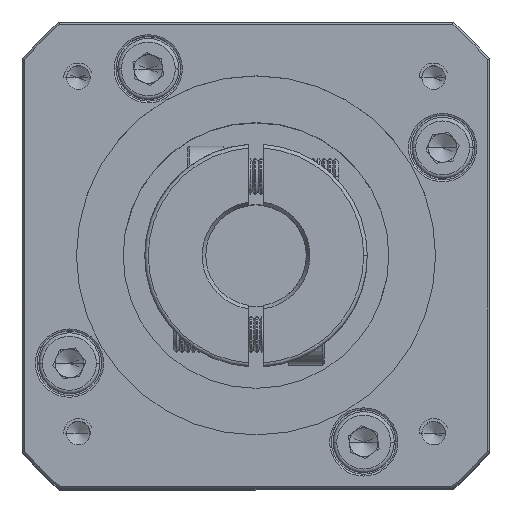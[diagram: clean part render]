
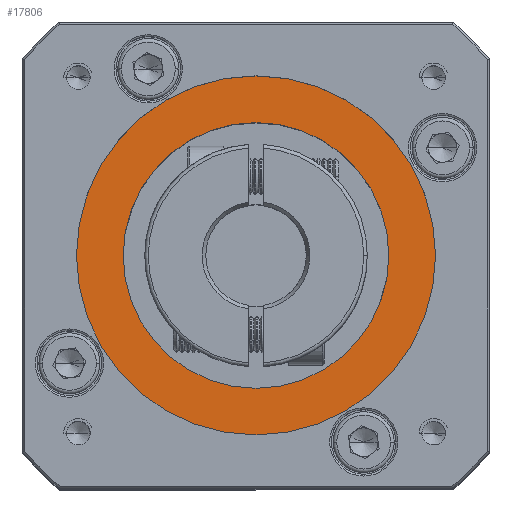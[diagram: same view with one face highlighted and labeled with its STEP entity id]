
A CAD part, top view. The second image highlights one B-rep face of the part: STEP entity #17806.
In plain terms, the highlighted planar face has unit normal (0, 0, 1).
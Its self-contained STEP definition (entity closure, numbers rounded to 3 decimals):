
#6511 = CIRCLE ( 'NONE', #107293, 25. ) ;
#7491 = EDGE_CURVE ( 'NONE', #95770, #49255, #97634, .T. ) ;
#8438 = EDGE_LOOP ( 'NONE', ( #26212, #24120 ) ) ;
#8912 = AXIS2_PLACEMENT_3D ( 'NONE', #45486, #102176, #82604 ) ;
#10890 = CARTESIAN_POINT ( 'NONE',  ( -45.09, 29.291, 0.97 ) ) ;
#17806 = ADVANCED_FACE ( 'NONE', ( #53760, #22391 ), #101759, .T. ) ;
#20666 = VERTEX_POINT ( 'NONE', #80405 ) ;
#22170 = DIRECTION ( 'NONE',  ( 1., 0., 0. ) ) ;
#22391 = FACE_BOUND ( 'NONE', #8438, .T. ) ;
#24120 = ORIENTED_EDGE ( 'NONE', *, *, #62823, .T. ) ;
#24616 = CIRCLE ( 'NONE', #71759, 18.5 ) ;
#26212 = ORIENTED_EDGE ( 'NONE', *, *, #112435, .T. ) ;
#26463 = DIRECTION ( 'NONE',  ( 1., 0., 0. ) ) ;
#28129 = CARTESIAN_POINT ( 'NONE',  ( -20.09, 29.291, 0.97 ) ) ;
#29662 = DIRECTION ( 'NONE',  ( 0., 0., -1. ) ) ;
#33313 = CARTESIAN_POINT ( 'NONE',  ( -70.09, 29.291, 0.97 ) ) ;
#34266 = DIRECTION ( 'NONE',  ( 0., 0., 1. ) ) ;
#37313 = DIRECTION ( 'NONE',  ( 0., 0., -1. ) ) ;
#45486 = CARTESIAN_POINT ( 'NONE',  ( -45.09, 29.291, 0.97 ) ) ;
#49255 = VERTEX_POINT ( 'NONE', #28129 ) ;
#53760 = FACE_OUTER_BOUND ( 'NONE', #64840, .T. ) ;
#56934 = AXIS2_PLACEMENT_3D ( 'NONE', #75281, #37313, #26463 ) ;
#57228 = DIRECTION ( 'NONE',  ( 1., 0., 0. ) ) ;
#60853 = CARTESIAN_POINT ( 'NONE',  ( -45.09, 29.291, 0.97 ) ) ;
#62823 = EDGE_CURVE ( 'NONE', #20666, #117727, #24616, .T. ) ;
#64840 = EDGE_LOOP ( 'NONE', ( #103450, #90820 ) ) ;
#70917 = DIRECTION ( 'NONE',  ( 1., 0., 0. ) ) ;
#71759 = AXIS2_PLACEMENT_3D ( 'NONE', #10890, #29662, #57228 ) ;
#72678 = CARTESIAN_POINT ( 'NONE',  ( -45.09, 29.291, 0.97 ) ) ;
#75281 = CARTESIAN_POINT ( 'NONE',  ( -45.09, 29.291, 0.97 ) ) ;
#80405 = CARTESIAN_POINT ( 'NONE',  ( -63.59, 29.291, 0.97 ) ) ;
#82604 = DIRECTION ( 'NONE',  ( 1., 0., 0. ) ) ;
#86468 = CARTESIAN_POINT ( 'NONE',  ( -26.59, 29.291, 0.97 ) ) ;
#89237 = DIRECTION ( 'NONE',  ( 0., 0., 1. ) ) ;
#90820 = ORIENTED_EDGE ( 'NONE', *, *, #7491, .T. ) ;
#91768 = EDGE_CURVE ( 'NONE', #49255, #95770, #6511, .T. ) ;
#95770 = VERTEX_POINT ( 'NONE', #33313 ) ;
#97634 = CIRCLE ( 'NONE', #115464, 25. ) ;
#99145 = CIRCLE ( 'NONE', #56934, 18.5 ) ;
#101759 = PLANE ( 'NONE',  #8912 ) ;
#102176 = DIRECTION ( 'NONE',  ( 0., 0., 1. ) ) ;
#103450 = ORIENTED_EDGE ( 'NONE', *, *, #91768, .T. ) ;
#107293 = AXIS2_PLACEMENT_3D ( 'NONE', #72678, #34266, #22170 ) ;
#112435 = EDGE_CURVE ( 'NONE', #117727, #20666, #99145, .T. ) ;
#115464 = AXIS2_PLACEMENT_3D ( 'NONE', #60853, #89237, #70917 ) ;
#117727 = VERTEX_POINT ( 'NONE', #86468 ) ;
